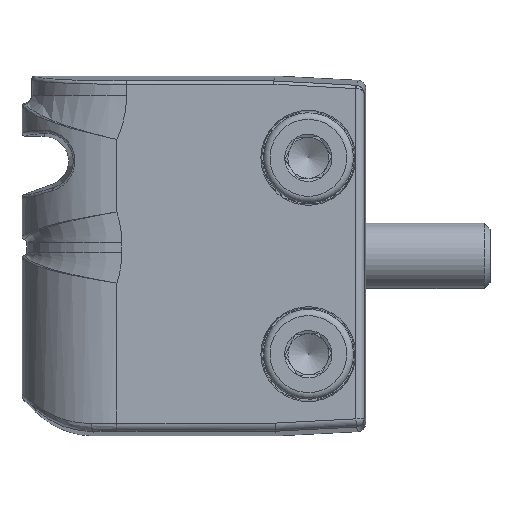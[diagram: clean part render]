
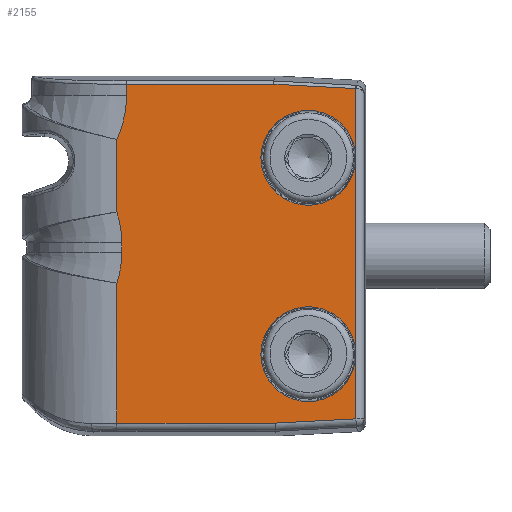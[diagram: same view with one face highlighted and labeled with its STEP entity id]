
A CAD part, front view. The second image highlights one B-rep face of the part: STEP entity #2155.
In plain terms, the highlighted planar face has unit normal (0, -1, 0).
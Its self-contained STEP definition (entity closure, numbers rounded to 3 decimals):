
#289=B_SPLINE_CURVE_WITH_KNOTS('',3,(#21427,#21428,#21429,#21430),
 .UNSPECIFIED.,.F.,.F.,(4,4),(0.,1.),.UNSPECIFIED.);
#902=FACE_BOUND('',#3908,.T.);
#903=FACE_BOUND('',#3909,.T.);
#904=FACE_BOUND('',#3910,.T.);
#1475=CIRCLE('',#13353,6.);
#1478=CIRCLE('',#13358,6.);
#1499=CIRCLE('',#13475,2.9);
#1500=CIRCLE('',#13476,2.9);
#2155=ADVANCED_FACE('',(#902,#903,#904),#2614,.T.);
#2614=PLANE('',#13477);
#3908=EDGE_LOOP('',(#6535));
#3909=EDGE_LOOP('',(#6536,#6537,#6538,#6539,#6540,#6541,#6542,#6543,#6544,
#6545,#6546,#6547));
#3910=EDGE_LOOP('',(#6548));
#6535=ORIENTED_EDGE('',*,*,#10263,.T.);
#6536=ORIENTED_EDGE('',*,*,#10230,.T.);
#6537=ORIENTED_EDGE('',*,*,#10264,.T.);
#6538=ORIENTED_EDGE('',*,*,#10052,.T.);
#6539=ORIENTED_EDGE('',*,*,#9974,.T.);
#6540=ORIENTED_EDGE('',*,*,#10265,.T.);
#6541=ORIENTED_EDGE('',*,*,#10060,.T.);
#6542=ORIENTED_EDGE('',*,*,#10063,.T.);
#6543=ORIENTED_EDGE('',*,*,#10066,.T.);
#6544=ORIENTED_EDGE('',*,*,#10072,.T.);
#6545=ORIENTED_EDGE('',*,*,#10266,.T.);
#6546=ORIENTED_EDGE('',*,*,#10267,.T.);
#6547=ORIENTED_EDGE('',*,*,#9738,.T.);
#6548=ORIENTED_EDGE('',*,*,#10268,.F.);
#8313=VERTEX_POINT('',#20627);
#8314=VERTEX_POINT('',#20629);
#8328=VERTEX_POINT('',#20678);
#8487=VERTEX_POINT('',#21364);
#8495=VERTEX_POINT('',#21431);
#8542=VERTEX_POINT('',#21602);
#8544=VERTEX_POINT('',#21613);
#8548=VERTEX_POINT('',#21652);
#8550=VERTEX_POINT('',#21658);
#8552=VERTEX_POINT('',#21671);
#8628=VERTEX_POINT('',#22101);
#8643=VERTEX_POINT('',#22212);
#8644=VERTEX_POINT('',#22216);
#8645=VERTEX_POINT('',#22219);
#9738=EDGE_CURVE('',#8314,#8313,#11156,.T.);
#9974=EDGE_CURVE('',#8495,#8487,#289,.T.);
#10052=EDGE_CURVE('',#8542,#8495,#11300,.T.);
#10060=EDGE_CURVE('',#8544,#8548,#1475,.T.);
#10063=EDGE_CURVE('',#8548,#8550,#11303,.T.);
#10066=EDGE_CURVE('',#8550,#8552,#1478,.T.);
#10072=EDGE_CURVE('',#8552,#8328,#11305,.T.);
#10230=EDGE_CURVE('',#8313,#8628,#11416,.T.);
#10263=EDGE_CURVE('',#8643,#8643,#1499,.T.);
#10264=EDGE_CURVE('',#8628,#8542,#11438,.T.);
#10265=EDGE_CURVE('',#8487,#8544,#11439,.T.);
#10266=EDGE_CURVE('',#8328,#8644,#11440,.T.);
#10267=EDGE_CURVE('',#8644,#8314,#11441,.T.);
#10268=EDGE_CURVE('',#8645,#8645,#1500,.T.);
#11156=LINE('',#20628,#12099);
#11300=LINE('',#21601,#12243);
#11303=LINE('',#21659,#12246);
#11305=LINE('',#21715,#12248);
#11416=LINE('',#22102,#12359);
#11438=LINE('',#22213,#12381);
#11439=LINE('',#22214,#12382);
#11440=LINE('',#22215,#12383);
#11441=LINE('',#22217,#12384);
#12099=VECTOR('',#15757,1.);
#12243=VECTOR('',#16359,1.);
#12246=VECTOR('',#16378,1.);
#12248=VECTOR('',#16392,1.);
#12359=VECTOR('',#16679,1.);
#12381=VECTOR('',#16753,1.);
#12382=VECTOR('',#16754,1.);
#12383=VECTOR('',#16755,1.);
#12384=VECTOR('',#16756,1.);
#13353=AXIS2_PLACEMENT_3D('',#21653,#16371,#16372);
#13358=AXIS2_PLACEMENT_3D('',#21672,#16383,#16384);
#13475=AXIS2_PLACEMENT_3D('',#22211,#16751,#16752);
#13476=AXIS2_PLACEMENT_3D('',#22218,#16757,#16758);
#13477=AXIS2_PLACEMENT_3D('',#22220,#16759,#16760);
#15757=DIRECTION('',(0.,0.,1.));
#16359=DIRECTION('',(0.,0.,-1.));
#16371=DIRECTION('',(0.,1.,0.));
#16372=DIRECTION('',(-1.,0.,0.));
#16378=DIRECTION('',(0.,0.,-1.));
#16383=DIRECTION('',(0.,1.,0.));
#16384=DIRECTION('',(-1.,0.,0.));
#16392=DIRECTION('',(0.,0.,-1.));
#16679=DIRECTION('',(-0.999,0.,0.052));
#16751=DIRECTION('',(0.,1.,0.));
#16752=DIRECTION('',(-1.,0.,0.));
#16753=DIRECTION('',(-1.,0.,0.));
#16754=DIRECTION('',(0.,0.,-1.));
#16755=DIRECTION('',(1.,0.,0.));
#16756=DIRECTION('',(0.999,0.,0.052));
#16757=DIRECTION('',(0.,-1.,0.));
#16758=DIRECTION('',(-1.,0.,0.));
#16759=DIRECTION('',(0.,-1.,0.));
#16760=DIRECTION('',(-1.,0.,0.));
#20627=CARTESIAN_POINT('',(66.515,-36.616,53.205));
#20628=CARTESIAN_POINT('',(66.515,-36.616,34.373));
#20629=CARTESIAN_POINT('',(66.515,-36.616,33.02));
#20678=CARTESIAN_POINT('',(51.912,-36.616,32.762));
#21364=CARTESIAN_POINT('',(51.912,-36.616,50.095));
#21427=CARTESIAN_POINT('',(52.512,-36.616,52.794));
#21428=CARTESIAN_POINT('',(52.512,-36.616,51.858));
#21429=CARTESIAN_POINT('',(52.308,-36.616,50.943));
#21430=CARTESIAN_POINT('',(51.912,-36.616,50.095));
#21431=CARTESIAN_POINT('',(52.512,-36.616,52.794));
#21601=CARTESIAN_POINT('',(52.512,-36.616,52.1));
#21602=CARTESIAN_POINT('',(52.512,-36.616,53.468));
#21613=CARTESIAN_POINT('',(51.912,-36.616,45.662));
#21652=CARTESIAN_POINT('',(52.212,-36.616,43.789));
#21653=CARTESIAN_POINT('',(46.212,-36.616,43.789));
#21658=CARTESIAN_POINT('',(52.212,-36.616,43.189));
#21659=CARTESIAN_POINT('',(52.212,-36.616,34.373));
#21671=CARTESIAN_POINT('',(51.912,-36.616,41.315));
#21672=CARTESIAN_POINT('',(46.212,-36.616,43.189));
#21715=CARTESIAN_POINT('',(51.912,-36.616,34.373));
#22101=CARTESIAN_POINT('',(61.509,-36.616,53.468));
#22102=CARTESIAN_POINT('',(47.153,-36.616,54.221));
#22211=CARTESIAN_POINT('',(63.612,-36.616,48.973));
#22212=CARTESIAN_POINT('',(60.712,-36.616,48.973));
#22213=CARTESIAN_POINT('',(46.112,-36.616,53.468));
#22214=CARTESIAN_POINT('',(51.912,-36.616,34.373));
#22215=CARTESIAN_POINT('',(46.112,-36.616,32.762));
#22216=CARTESIAN_POINT('',(61.585,-36.616,32.761));
#22217=CARTESIAN_POINT('',(46.238,-36.616,31.955));
#22218=CARTESIAN_POINT('',(63.612,-36.616,36.973));
#22219=CARTESIAN_POINT('',(60.712,-36.616,36.973));
#22220=CARTESIAN_POINT('',(46.112,-36.616,34.373));
